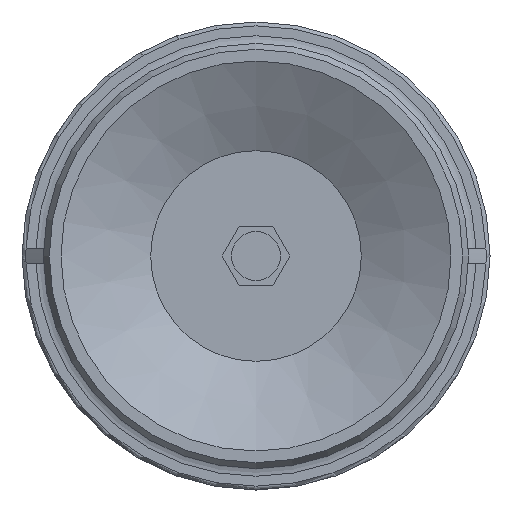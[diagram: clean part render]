
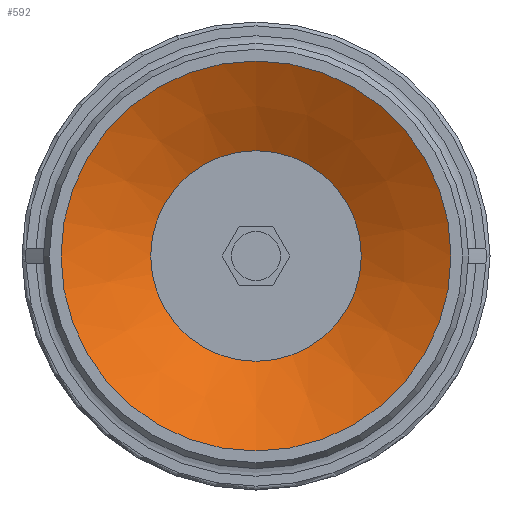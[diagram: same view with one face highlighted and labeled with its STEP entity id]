
A CAD part, front view. The second image highlights one B-rep face of the part: STEP entity #592.
In plain terms, the highlighted conical face has half-angle 61.631 degrees and reference radius 5.4 mm.
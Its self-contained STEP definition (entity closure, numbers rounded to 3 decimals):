
#592=ADVANCED_FACE('',(#926,#927),#928,.F.);
#926=FACE_BOUND('',#1267,.T.);
#927=FACE_OUTER_BOUND('',#1268,.T.);
#928=CONICAL_SURFACE('',#1269,5.4,1.076);
#1267=EDGE_LOOP('',(#2231));
#1268=EDGE_LOOP('',(#2232));
#1269=AXIS2_PLACEMENT_3D('',#2233,#2234,#2235);
#2231=ORIENTED_EDGE('',*,*,#2534,.F.);
#2232=ORIENTED_EDGE('',*,*,#2536,.T.);
#2233=CARTESIAN_POINT('',(0.0,2.484,0.0));
#2234=DIRECTION('',(-0.0,-1.0,0.));
#2235=DIRECTION('',(0.0,0.,-1.0));
#2534=EDGE_CURVE('',#2999,#2999,#3000,.T.);
#2536=EDGE_CURVE('',#3003,#3003,#3004,.T.);
#2999=VERTEX_POINT('',#3955);
#3000=CIRCLE('',#3956,5.4);
#3003=VERTEX_POINT('',#3959);
#3004=CIRCLE('',#3960,10.0);
#3955=CARTESIAN_POINT('',(0.0,2.484,-5.4));
#3956=AXIS2_PLACEMENT_3D('',#4383,#4384,#4385);
#3959=CARTESIAN_POINT('',(0.0,0.,-10.0));
#3960=AXIS2_PLACEMENT_3D('',#4389,#4390,#4391);
#4383=CARTESIAN_POINT('',(0.0,2.484,0.0));
#4384=DIRECTION('',(0.0,-1.0,0.));
#4385=DIRECTION('',(0.0,0.,-1.0));
#4389=CARTESIAN_POINT('',(0.0,0.0,0.0));
#4390=DIRECTION('',(0.0,-1.0,0.));
#4391=DIRECTION('',(0.0,0.,-1.0));
